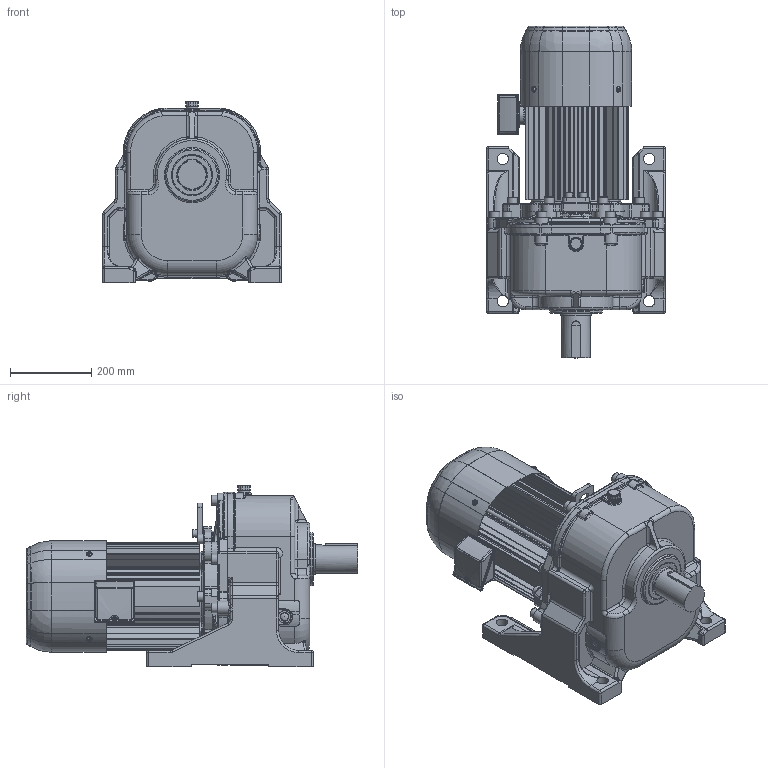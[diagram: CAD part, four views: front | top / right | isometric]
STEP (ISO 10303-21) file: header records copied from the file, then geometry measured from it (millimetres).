
FILE_DESCRIPTION( ( 'Unknown' ), '1' );
FILE_NAME( 'X:/gear/gm/3D-WEB/IE3/DP/ﾊﾟｰﾂ/完成品/dpb_55_60.stp', 'Unknown', ( 'Unknown' ), ( 'Unknown' ), 'PSStep 14.0', 'Unknown', ' ' );
FILE_SCHEMA( ( 'AUTOMOTIVE_DESIGN { 1 0 10303 214 1 1 1 1 }' ) );
Length unit declared in the file: millimetre
Products named in the file (7): \X2\67A\X0\
Bounding box: 440 x 816.6 x 447 mm (x, y, z)
Volume: 44731346.6 mm3; surface area: 2836264.1 mm2
Topology: 7 solids, 47 shells, 3158 faces, 7947 edges, 4976 vertices
Faces by surface type: cylinder 1252, plane 1199, torus 329, bspline 232, cone 100, sphere 46
Full cylindrical faces by diameter (mm): 3.8 x2, 4.2 x8, 4.8 x1, 5.5 x4, 5.6 x1, 5.8 x4, 6 x12, 6.4 x4, 7 x1, 10 x9, 10.106 x14, 11 x4, 12 x6, 13 x2, 13.835 x14, 14 x4, 15 x3, 16 x15, 17.5 x1, 18 x2, 18.5 x1, 19 x14, 19.727 x2, 20 x1, 21 x2, 21.6 x2, 23 x1, 24 x14, 25 x2, 26 x1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
Entity records: 152003 total; most frequent: CARTESIAN_POINT 52671, DIRECTION 16170, ORIENTED_EDGE 14844, EDGE_CURVE 7422, AXIS2_PLACEMENT_3D 6412, VERTEX_POINT 4824, EDGE_LOOP 3660, FACE_OUTER_BOUND 3393
